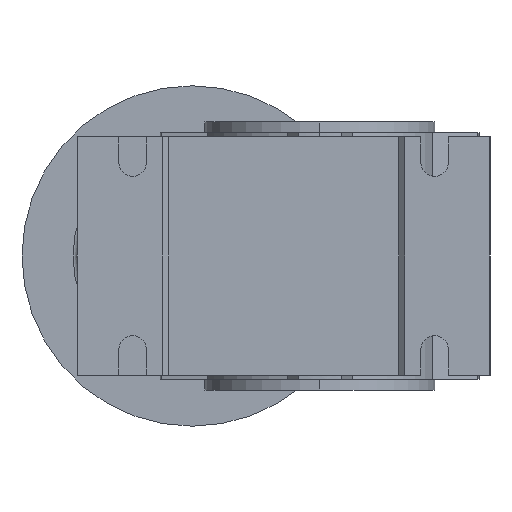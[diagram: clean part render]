
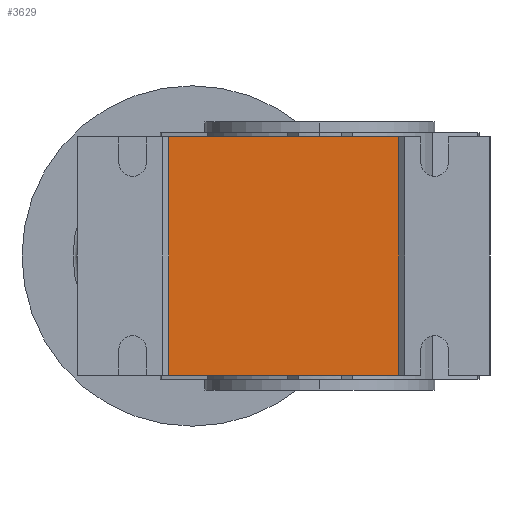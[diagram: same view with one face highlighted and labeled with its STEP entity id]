
A CAD part, left-side view. The second image highlights one B-rep face of the part: STEP entity #3629.
In plain terms, the highlighted planar face has unit normal (-1, 0, 0).
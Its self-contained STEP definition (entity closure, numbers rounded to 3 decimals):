
#103 = EDGE_CURVE ( 'NONE', #6054, #6080, #2229, .T. ) ;
#104 = EDGE_CURVE ( 'NONE', #6025, #6004, #2232, .T. ) ;
#207 = EDGE_CURVE ( 'NONE', #6133, #6004, #2541, .T. ) ;
#235 = EDGE_CURVE ( 'NONE', #6053, #6025, #2626, .T. ) ;
#267 = EDGE_CURVE ( 'NONE', #6080, #6133, #2722, .T. ) ;
#291 = EDGE_CURVE ( 'NONE', #6054, #6053, #2795, .T. ) ;
#402 = EDGE_LOOP ( 'NONE', ( #635, #636, #637, #634, #638, #639 ) ) ;
#634 = ORIENTED_EDGE ( 'NONE', *, *, #235, .F. ) ;
#635 = ORIENTED_EDGE ( 'NONE', *, *, #267, .T. ) ;
#636 = ORIENTED_EDGE ( 'NONE', *, *, #207, .T. ) ;
#637 = ORIENTED_EDGE ( 'NONE', *, *, #104, .F. ) ;
#638 = ORIENTED_EDGE ( 'NONE', *, *, #291, .F. ) ;
#639 = ORIENTED_EDGE ( 'NONE', *, *, #103, .T. ) ;
#1273 = VECTOR ( 'NONE', #2543, 1000. ) ;
#1301 = VECTOR ( 'NONE', #2628, 1000. ) ;
#1333 = VECTOR ( 'NONE', #2724, 1000. ) ;
#1361 = VECTOR ( 'NONE', #2797, 1000. ) ;
#1718 = AXIS2_PLACEMENT_3D ( 'NONE', #5714, #5715, #5716 ) ;
#1720 = FACE_OUTER_BOUND ( 'NONE', #402, .T. ) ;
#2229 = LINE ( 'NONE', #2230, #3154 ) ;
#2230 = CARTESIAN_POINT ( 'NONE',  ( -37.5, -18.5, -28. ) ) ;
#2231 = DIRECTION ( 'NONE',  ( 0., 0., 1. ) ) ;
#2232 = LINE ( 'NONE', #2233, #3155 ) ;
#2233 = CARTESIAN_POINT ( 'NONE',  ( -37.5, 35.5, -28. ) ) ;
#2234 = DIRECTION ( 'NONE',  ( 0., 0., 1. ) ) ;
#2541 = LINE ( 'NONE', #2542, #1273 ) ;
#2542 = CARTESIAN_POINT ( 'NONE',  ( -37.5, 35.5, 28. ) ) ;
#2543 = DIRECTION ( 'NONE',  ( 0., 1., 0. ) ) ;
#2626 = LINE ( 'NONE', #2627, #1301 ) ;
#2627 = CARTESIAN_POINT ( 'NONE',  ( -37.5, 35.5, -28. ) ) ;
#2628 = DIRECTION ( 'NONE',  ( 0., 1., 0. ) ) ;
#2722 = LINE ( 'NONE', #2723, #1333 ) ;
#2723 = CARTESIAN_POINT ( 'NONE',  ( -37.5, 35.5, 28. ) ) ;
#2724 = DIRECTION ( 'NONE',  ( 0., 1., 0. ) ) ;
#2795 = LINE ( 'NONE', #2796, #1361 ) ;
#2796 = CARTESIAN_POINT ( 'NONE',  ( -37.5, 35.5, -28. ) ) ;
#2797 = DIRECTION ( 'NONE',  ( 0., 1., 0. ) ) ;
#3154 = VECTOR ( 'NONE', #2231, 1000. ) ;
#3155 = VECTOR ( 'NONE', #2234, 1000. ) ;
#3629 = ADVANCED_FACE ( 'NONE', ( #1720 ), #5713, .F. ) ;
#5108 = CARTESIAN_POINT ( 'NONE',  ( -37.5, 35.5, 28. ) ) ;
#5129 = CARTESIAN_POINT ( 'NONE',  ( -37.5, 35.5, -28. ) ) ;
#5157 = CARTESIAN_POINT ( 'NONE',  ( -37.5, 0., -28. ) ) ;
#5158 = CARTESIAN_POINT ( 'NONE',  ( -37.5, -18.5, -28. ) ) ;
#5184 = CARTESIAN_POINT ( 'NONE',  ( -37.5, -18.5, 28. ) ) ;
#5237 = CARTESIAN_POINT ( 'NONE',  ( -37.5, 0., 28. ) ) ;
#5713 = PLANE ( 'NONE',  #1718 ) ;
#5714 = CARTESIAN_POINT ( 'NONE',  ( -37.5, 35.5, -28. ) ) ;
#5715 = DIRECTION ( 'NONE',  ( 1., 0., 0. ) ) ;
#5716 = DIRECTION ( 'NONE',  ( 0., 0., -1. ) ) ;
#6004 = VERTEX_POINT ( 'NONE', #5108 ) ;
#6025 = VERTEX_POINT ( 'NONE', #5129 ) ;
#6053 = VERTEX_POINT ( 'NONE', #5157 ) ;
#6054 = VERTEX_POINT ( 'NONE', #5158 ) ;
#6080 = VERTEX_POINT ( 'NONE', #5184 ) ;
#6133 = VERTEX_POINT ( 'NONE', #5237 ) ;
